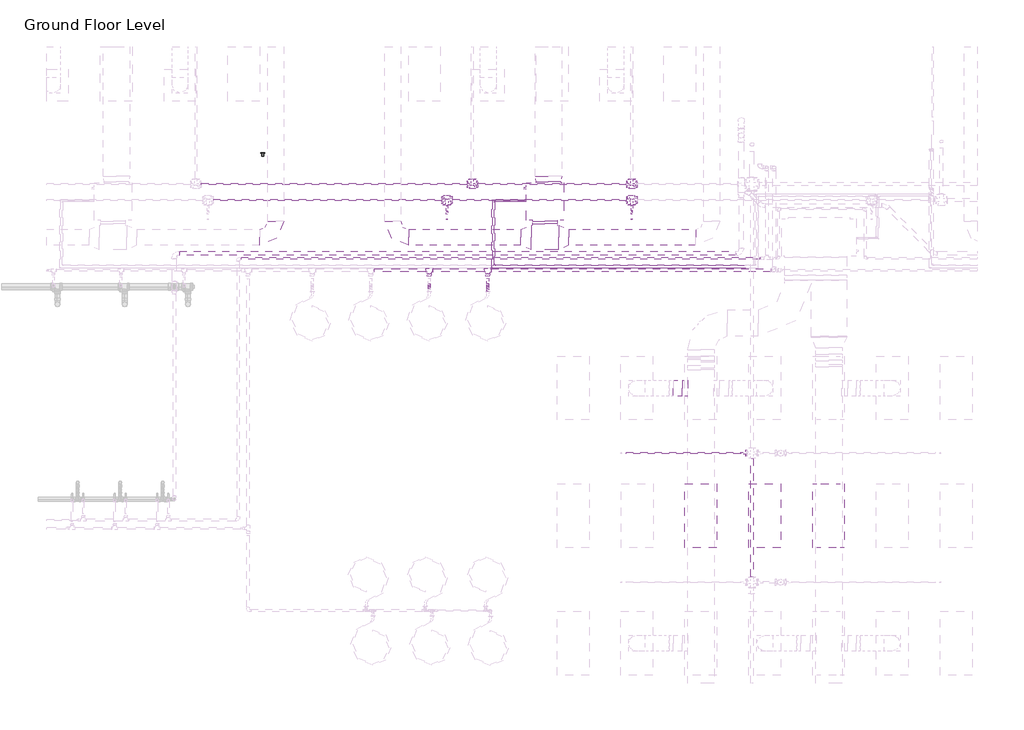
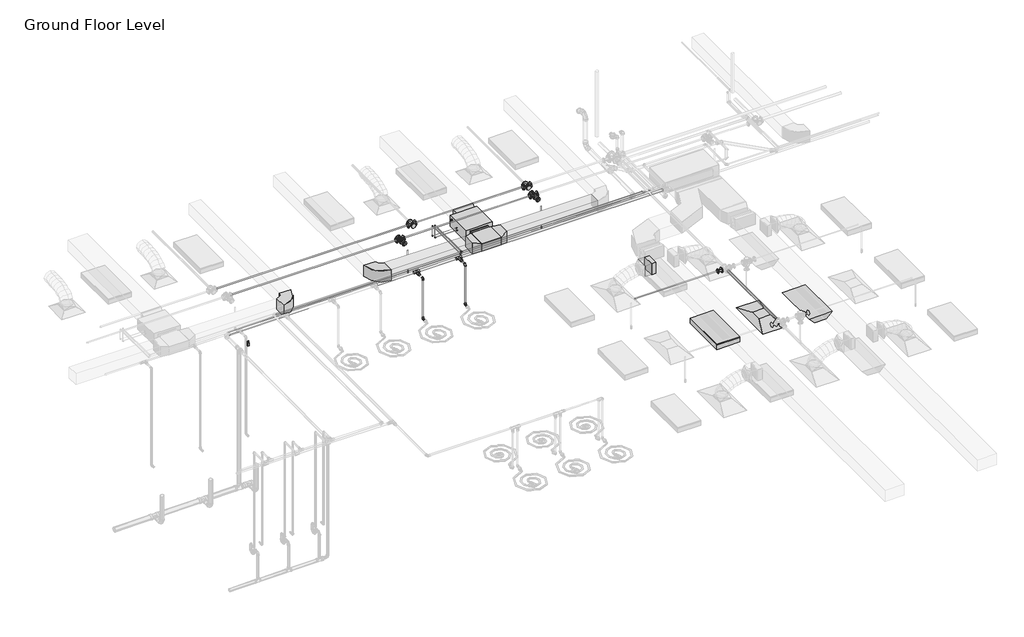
# One storey, part 48 of 74: 27 pipe segments, 21 pipe fittings, 9 duct fittings, 4 duct segments, 2 fire suppression terminals, 2 light fixtures, 1 air terminal, 1 proxy, 1 switching device.
"""IFC4 building model written with IfcOpenShell, lengths in millimetres."""

from ifc_helpers import new_model, si_unit, point, frame, frame_2d, origin, place, context, project, spatial, polyline, circle_curve, trimmed, segment, composite_curve, outline, extrude, transform, mapped, element, save
from components import m_return_diffuser_1200x600_1200_x_600_face_300_x_300_d1983ef6, fcu_daikin_iu_bad131e0, m_rectangular_elbow_radius_1_w_618da153, m_rectangular_takeoff_standard_2be5eba1, m_rectangular_tee_standard_fa4de0e8, m_rectangular_transition_angle_45_degree_5a11b24e, m_rectangular_transition_angle_45_degree_27e6000f, m_rectangular_transition_angle_45_degree_1c32c0a1, m_rectangular_transition_angle_45_degree_6e5ad010, m_sprinkler_pendent_15_mm_pendent_06fcbd8e, m_emergency_recessed_lighting_fixture_600x1200_277_5b10b25d, m_troffer_light_parabolic_rectangular1_0600x1200mm_4_lamp_86473d4a, m_elbow_generic_standard_a088f956, m_elbow_generic_standard_2a704253, m_elbow_generic_standard_6b1a80c6, m_elbow_generic_standard_5542be81, m_reducer_flanged_cs_class_150_standard_ccf252ad, m_reducer_flanged_cs_class_150_standard_83138b42, m_tee_generic_standard_5b2ed4d4, m_tee_generic_standard_25a94648, m_tee_round_base_flanged_cs_class_150_standard_7e5987a1, standard_517a5a8d, standard_cd25fed3, standard_f1337950, m_lighting_switches_single_pole_10251bba

model = new_model("IFC4")

# Units and contexts
model_context = context("Model", 3, world=origin())
ifc_project = project(units=[si_unit("LENGTHUNIT", "METRE", prefix="MILLI")], contexts=[model_context])

# Site, building, storey
site = spatial("IfcSite", under=ifc_project)
building = spatial("IfcBuilding", under=site)
storey = spatial("IfcBuildingStorey", under=building, Name="Ground Floor Level", Elevation=900.0)

# Air terminal
placement = place(None, origin())
m_return_diffuser_1200x600_1200_x_600_face_300_x_300_shape = m_return_diffuser_1200x600_1200_x_600_face_300_x_300_d1983ef6(model_context)
element("IfcAirTerminal", 1, ObjectType="M_Return Diffuser 1200x600 : 1200 x 600 Face 300 x 300 Connection", at=placement, inside=storey, context=model_context, shape_type="MappedRepresentation", body=[
    mapped(m_return_diffuser_1200x600_1200_x_600_face_300_x_300_shape, transform((-5737.2327605, 8835.2153534, 3650.0), x_axis=(0.0, 1.0, 0.0), y_axis=(-1.0, 0.0, 0.0), z_axis=(0.0, 0.0, 1.0))),
])

# Proxy
fcu_daikin_iu_shape = fcu_daikin_iu_bad131e0(model_context)
element("IfcBuildingElementProxy", 2, Name="FCU-DAIKIN IU : 4.5kW, 230V/50Hz/1Ph", ObjectType="FCU-DAIKIN IU : 4.5kW, 230V/50Hz/1Ph", at=placement, inside=storey, context=model_context, shape_type="MappedRepresentation", body=[
    mapped(fcu_daikin_iu_shape, transform((-9872.2327605, 14745.2153534, 3934.0872564), x_axis=(-1.0, 0.0, 0.0), y_axis=(0.0, -1.0, 0.0), z_axis=(0.0, 0.0, 1.0))),
])

# Duct fittings
m_rectangular_elbow_radius_1_w_shape = m_rectangular_elbow_radius_1_w_618da153(model_context)
element("IfcDuctFitting", 3, ObjectType="M_Rectangular Elbow - Radius : 1 W", at=placement, inside=storey, context=model_context, shape_type="MappedRepresentation", body=[
    mapped(m_rectangular_elbow_radius_1_w_shape, transform((-14937.2327605, 14069.8153534, 4075.2881511), x_axis=(1.0, 0.0, 0.0), y_axis=(0.0, 1.0, 0.0), z_axis=(0.0, 0.0, 1.0))),
])
element("IfcDuctFitting", 4, ObjectType="M_Rectangular Elbow - Radius : 1 W", at=placement, inside=storey, context=model_context, shape_type="MappedRepresentation", body=[
    mapped(m_rectangular_elbow_radius_1_w_shape, transform((-12737.2327605, 14069.8153534, 4075.2872564), x_axis=(0.0, -1.0, 0.0), y_axis=(1.0, 0.0, 0.0), z_axis=(0.0, 0.0, 1.0))),
])
m_rectangular_takeoff_standard_shape = m_rectangular_takeoff_standard_2be5eba1(model_context)
element("IfcDuctFitting", 5, ObjectType="M_Rectangular Takeoff : Standard", at=placement, inside=storey, context=model_context, shape_type="MappedRepresentation", body=[
    mapped(m_rectangular_takeoff_standard_shape, transform((-7189.6910789, 11235.2153534, 4150.0), x_axis=(-1.0, 0.0, 0.0), y_axis=(0.0, 1.0, 0.0), z_axis=(0.0, 0.0, -1.0))),
])
m_rectangular_tee_standard_shape = m_rectangular_tee_standard_fa4de0e8(model_context)
element("IfcDuctFitting", 6, ObjectType="M_Rectangular Tee : Standard", at=placement, inside=storey, context=model_context, shape_type="MappedRepresentation", body=[
    mapped(m_rectangular_tee_standard_shape, transform((-9872.2327605, 14069.8153534, 4075.2872564), x_axis=(-1.0, 0.0, 0.0), y_axis=(0.0, -1.0, 0.0), z_axis=(0.0, 0.0, 1.0))),
])
m_rectangular_transition_angle_45_degree_shape = m_rectangular_transition_angle_45_degree_5a11b24e(model_context)
element("IfcDuctFitting", 7, ObjectType="M_Rectangular Transition - Angle : 45 Degree", at=placement, inside=storey, context=model_context, shape_type="MappedRepresentation", body=[
    mapped(m_rectangular_transition_angle_45_degree_shape, transform((-9808.7327605, 15120.6153534, 4099.9997564), x_axis=(0.0, 1.0, 0.0), y_axis=(-1.0, 0.0, 0.0), z_axis=(0.0, 0.0, 1.0))),
])
m_rectangular_transition_angle_45_degree_2_shape = m_rectangular_transition_angle_45_degree_27e6000f(model_context)
element("IfcDuctFitting", 8, ObjectType="M_Rectangular Transition - Angle : 45 Degree", at=placement, inside=storey, context=model_context, shape_type="MappedRepresentation", body=[
    mapped(m_rectangular_transition_angle_45_degree_2_shape, transform((-9872.2327605, 14369.8153534, 4075.2872564), x_axis=(0.0, -1.0, 0.0), y_axis=(1.0, 0.0, 0.0), z_axis=(0.0, 0.0, 1.0))),
])
m_rectangular_transition_angle_45_degree_3_shape = m_rectangular_transition_angle_45_degree_1c32c0a1(model_context)
element("IfcDuctFitting", 9, ObjectType="M_Rectangular Transition - Angle : 45 Degree", at=placement, inside=storey, context=model_context, shape_type="MappedRepresentation", body=[
    mapped(m_rectangular_transition_angle_45_degree_3_shape, transform((-9872.2327605, 14326.1149854, 4075.2872564), x_axis=(0.0, -1.0, 0.0), y_axis=(1.0, 0.0, 0.0), z_axis=(0.0, 0.0, 1.0))),
])
m_rectangular_transition_angle_45_degree_4_shape = m_rectangular_transition_angle_45_degree_6e5ad010(model_context)
element("IfcDuctFitting", 10, ObjectType="M_Rectangular Transition - Angle : 45 Degree", at=placement, inside=storey, context=model_context, shape_type="MappedRepresentation", body=[
    mapped(m_rectangular_transition_angle_45_degree_4_shape, transform((-10128.1702605, 14069.8153534, 4075.2872564), x_axis=(-1.0, 0.0, 0.0), y_axis=(0.0, -1.0, 0.0), z_axis=(0.0, 0.0, 1.0))),
])
element("IfcDuctFitting", 11, ObjectType="M_Rectangular Transition - Angle : 45 Degree", at=placement, inside=storey, context=model_context, shape_type="MappedRepresentation", body=[
    mapped(m_rectangular_transition_angle_45_degree_4_shape, transform((-9616.2952605, 14069.8153534, 4075.2872564), x_axis=(1.0, 0.0, 0.0), y_axis=(0.0, 1.0, 0.0), z_axis=(0.0, 0.0, 1.0))),
])

# Duct segments
element("IfcDuctSegment", 12, ObjectType="Radius Elbows / Taps", at=placement, inside=storey, context=model_context, shape_type="SweptSolid", body=[
    extrude(outline(polyline([(-9420.8948503, 13919.8153534), (-9420.8948503, 14219.8153534), (-7037.2327605, 14219.8153534), (-7037.2327605, 13919.8153534), (-9420.8948503, 13919.8153534)])), frame((0.0, 0.0, 3925.2872564), z_axis=(0.0, 0.0, 1.0), x_axis=(1.0, 0.0, 0.0)), (0.0, 0.0, 1.0), 300.0),
])
element("IfcDuctSegment", 13, ObjectType="Radius Elbows / Taps", at=placement, inside=storey, context=model_context, shape_type="SweptSolid", body=[
    extrude(outline(polyline([(-12437.2327605, 13919.8153534), (-12437.2327605, 14219.8153534), (-10323.5706707, 14219.8153534), (-10323.5706707, 13919.8153534), (-12437.2327605, 13919.8153534)])), frame((0.0, 0.0, 3925.2872564), z_axis=(0.0, 0.0, 1.0), x_axis=(1.0, 0.0, 0.0)), (0.0, 0.0, 1.0), 300.0),
])
element("IfcDuctSegment", 14, ObjectType="Radius Elbows / Taps", at=placement, inside=storey, context=model_context, shape_type="SweptSolid", body=[
    extrude(outline(polyline([(-10103.2327605, 14369.4532214), (-9641.2327605, 14369.4532214), (-9641.2327605, 14326.1149854), (-10103.2327605, 14326.1149854), (-10103.2327605, 14369.4532214)])), frame((0.0, 0.0, 3968.2872564), z_axis=(0.0, 0.0, 1.0), x_axis=(1.0, 0.0, 0.0)), (0.0, 0.0, 1.0), 214.0),
])
element("IfcDuctSegment", 15, ObjectType="Radius Elbows / Taps", at=placement, inside=storey, context=model_context, shape_type="SweptSolid", body=[
    extrude(outline(polyline([(-7291.2910789, 11385.2153534), (-7291.2910789, 11085.2153534), (-7461.2487616, 11085.2153534), (-7461.2487616, 11385.2153534), (-7291.2910789, 11385.2153534)])), frame((0.0, 0.0, 4000.0), z_axis=(0.0, 0.0, 1.0), x_axis=(1.0, 0.0, 0.0)), (0.0, 0.0, 1.0), 300.0),
])

# Fire suppression terminals
m_sprinkler_pendent_15_mm_pendent_shape = m_sprinkler_pendent_15_mm_pendent_06fcbd8e(model_context)
element("IfcFireSuppressionTerminal", 16, ObjectType="M_Sprinkler - Pendent : 15 mm Pendent", at=placement, inside=storey, context=model_context, shape_type="MappedRepresentation", body=[
    mapped(m_sprinkler_pendent_15_mm_pendent_shape, transform((-11714.286216, 14412.7243649, 3650.0), x_axis=(1.0, 0.0, 0.0), y_axis=(0.0, 1.0, 0.0), z_axis=(0.0, 0.0, 1.0))),
])
element("IfcFireSuppressionTerminal", 17, ObjectType="M_Sprinkler - Pendent : 15 mm Pendent", at=placement, inside=storey, context=model_context, shape_type="MappedRepresentation", body=[
    mapped(m_sprinkler_pendent_15_mm_pendent_shape, transform((-8237.2327605, 14412.7243649, 3650.0), x_axis=(1.0, 0.0, 0.0), y_axis=(0.0, 1.0, 0.0), z_axis=(0.0, 0.0, 1.0))),
])

# Light fixtures
m_emergency_recessed_lighting_fixture_600x1200_277_shape = m_emergency_recessed_lighting_fixture_600x1200_277_5b10b25d(model_context)
element("IfcLightFixture", 18, ObjectType="M_Emergency Recessed Lighting Fixture : 600x1200 - 277", at=placement, inside=storey, context=model_context, shape_type="MappedRepresentation", body=[
    mapped(m_emergency_recessed_lighting_fixture_600x1200_277_shape, transform((-4837.2327605, 8235.2153534, 3650.0), x_axis=(0.0, 1.0, 0.0), y_axis=(-1.0, 0.0, 0.0), z_axis=(0.0, 0.0, 1.0))),
])
m_troffer_light_parabolic_rectangular1_0600x1200mm_4_lamp_shape = m_troffer_light_parabolic_rectangular1_0600x1200mm_4_lamp_86473d4a(model_context)
element("IfcLightFixture", 19, ObjectType="M_Troffer Light - Parabolic Rectangular1 : 0600x1200mm(4 Lamp) - 277V 2", at=placement, inside=storey, context=model_context, shape_type="MappedRepresentation", body=[
    mapped(m_troffer_light_parabolic_rectangular1_0600x1200mm_4_lamp_shape, transform((-6996.6986926, 8853.918855, 3650.0), x_axis=(0.0, 1.0, 0.0), y_axis=(-1.0, 0.0, 0.0), z_axis=(0.0, 0.0, 1.0))),
])

# Pipe fittings
m_elbow_generic_standard_shape = m_elbow_generic_standard_a088f956(model_context)
element("IfcPipeFitting", 20, ObjectType="M_Elbow - Generic : Standard", at=placement, inside=storey, context=model_context, shape_type="MappedRepresentation", body=[
    mapped(m_elbow_generic_standard_shape, transform((-10820.3327605, 14745.2153534, 4380.0), x_axis=(0.0, 0.0, 1.0), y_axis=(0.0, -1.0, 0.0), z_axis=(1.0, 0.0, 0.0))),
])
m_elbow_generic_standard_2_shape = m_elbow_generic_standard_2a704253(model_context)
element("IfcPipeFitting", 21, ObjectType="M_Elbow - Generic : Standard", at=placement, inside=storey, context=model_context, shape_type="MappedRepresentation", body=[
    mapped(m_elbow_generic_standard_2_shape, transform((-10870.0192947, 14770.2153534, 4365.0), x_axis=(0.0, 0.0, 1.0), y_axis=(0.0, -1.0, 0.0), z_axis=(1.0, 0.0, 0.0))),
])
m_elbow_generic_standard_3_shape = m_elbow_generic_standard_6b1a80c6(model_context)
element("IfcPipeFitting", 22, ObjectType="M_Elbow - Generic : Standard", at=placement, inside=storey, context=model_context, shape_type="MappedRepresentation", body=[
    mapped(m_elbow_generic_standard_3_shape, transform((-10820.3359808, 14745.2153534, 4034.0996164), x_axis=(-0.9999999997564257, 0.0, 2.2071440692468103e-05), y_axis=(2.2071440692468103e-05, 0.0, 0.9999999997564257), z_axis=(0.0, 1.0, 0.0))),
])
m_elbow_generic_standard_4_shape = m_elbow_generic_standard_5542be81(model_context)
element("IfcPipeFitting", 23, ObjectType="M_Elbow - Generic : Standard", at=placement, inside=storey, context=model_context, shape_type="MappedRepresentation", body=[
    mapped(m_elbow_generic_standard_4_shape, transform((-10870.0222525, 14770.2153534, 4084.8996164), x_axis=(0.0, 0.0, -1.0), y_axis=(1.0, 0.0, 0.0), z_axis=(0.0, -1.0, 0.0))),
])
m_reducer_flanged_cs_class_150_standard_shape = m_reducer_flanged_cs_class_150_standard_ccf252ad(model_context)
element("IfcPipeFitting", 24, ObjectType="M_Reducer - Flanged - CS - Class 150 : Standard", at=placement, inside=storey, context=model_context, shape_type="MappedRepresentation", body=[
    mapped(m_reducer_flanged_cs_class_150_standard_shape, transform((-11714.286216, 14672.759591, 4291.0943441), x_axis=(0.0, -1.0, 0.0), y_axis=(1.0, 0.0, 0.0), z_axis=(0.0, 0.0, 1.0))),
])
element("IfcPipeFitting", 25, ObjectType="M_Reducer - Flanged - CS - Class 150 : Standard", at=placement, inside=storey, context=model_context, shape_type="MappedRepresentation", body=[
    mapped(m_reducer_flanged_cs_class_150_standard_shape, transform((-8237.2327605, 14672.759591, 4291.0943441), x_axis=(0.0, -1.0, 0.0), y_axis=(1.0, 0.0, 0.0), z_axis=(0.0, 0.0, 1.0))),
])
m_reducer_flanged_cs_class_150_standard_2_shape = m_reducer_flanged_cs_class_150_standard_83138b42(model_context)
element("IfcPipeFitting", 26, ObjectType="M_Reducer - Flanged - CS - Class 150 : Standard", at=placement, inside=storey, context=model_context, shape_type="MappedRepresentation", body=[
    mapped(m_reducer_flanged_cs_class_150_standard_2_shape, transform((-6080.130502, 10013.008259, 4360.0), x_axis=(-1.0, 0.0, 0.0), y_axis=(0.0, 0.0, -1.0), z_axis=(0.0, -1.0, 0.0))),
])
m_tee_generic_standard_shape = m_tee_generic_standard_5b2ed4d4(model_context)
element("IfcPipeFitting", 27, ObjectType="M_Tee - Generic : Standard", at=placement, inside=storey, context=model_context, shape_type="MappedRepresentation", body=[
    mapped(m_tee_generic_standard_shape, transform((-10820.3327605, 13545.2153534, 4380.0), x_axis=(1.0, 0.0, 0.0), y_axis=(0.0, -1.0, 0.0), z_axis=(0.0, 0.0, -1.0))),
])
m_tee_generic_standard_2_shape = m_tee_generic_standard_25a94648(model_context)
element("IfcPipeFitting", 28, ObjectType="M_Tee - Generic : Standard", at=placement, inside=storey, context=model_context, shape_type="MappedRepresentation", body=[
    mapped(m_tee_generic_standard_2_shape, transform((-10870.0192947, 13494.0185138, 4365.0), x_axis=(-1.0, 0.0, 0.0), y_axis=(0.0, -1.0, 0.0), z_axis=(0.0, 0.0, 1.0))),
])
m_tee_round_base_flanged_cs_class_150_standard_shape = m_tee_round_base_flanged_cs_class_150_standard_7e5987a1(model_context)
element("IfcPipeFitting", 29, ObjectType="M_Tee Round Base - Flanged - CS - Class 150 : Standard", at=placement, inside=storey, context=model_context, shape_type="MappedRepresentation", body=[
    mapped(m_tee_round_base_flanged_cs_class_150_standard_shape, transform((-11714.286216, 14773.4681847, 4291.0943441), x_axis=(-1.0, 0.0, 0.0), y_axis=(0.0, 1.0, 0.0), z_axis=(0.0, 0.0, -1.0))),
])
element("IfcPipeFitting", 30, ObjectType="M_Tee Round Base - Flanged - CS - Class 150 : Standard", at=placement, inside=storey, context=model_context, shape_type="MappedRepresentation", body=[
    mapped(m_tee_round_base_flanged_cs_class_150_standard_shape, transform((-8237.2327605, 14773.4681847, 4291.0943441), x_axis=(-1.0, 0.0, 0.0), y_axis=(0.0, 1.0, 0.0), z_axis=(0.0, 0.0, -1.0))),
])
element("IfcPipeFitting", 31, ObjectType="M_Tee Round Base - Flanged - CS - Class 150 : Standard", at=placement, inside=storey, context=model_context, shape_type="MappedRepresentation", body=[
    mapped(m_tee_round_base_flanged_cs_class_150_standard_shape, transform((-11237.2327605, 15073.2009828, 4360.0), x_axis=(-1.0, 0.0, 0.0), y_axis=(0.0, -1.0, 0.0), z_axis=(0.0, 0.0, 1.0))),
])
element("IfcPipeFitting", 32, ObjectType="M_Tee Round Base - Flanged - CS - Class 150 : Standard", at=placement, inside=storey, context=model_context, shape_type="MappedRepresentation", body=[
    mapped(m_tee_round_base_flanged_cs_class_150_standard_shape, transform((-8237.2327605, 15073.2009828, 4360.0), x_axis=(-1.0, 0.0, 0.0), y_axis=(0.0, -1.0, 0.0), z_axis=(0.0, 0.0, 1.0))),
])
standard_shape = standard_517a5a8d(model_context)
element("IfcPipeFitting", 33, ObjectType="M_Elbow - CPVC - Sch 40 : Standard", at=placement, inside=storey, context=model_context, shape_type="MappedRepresentation", body=[
    mapped(standard_shape, transform((-12047.2327605, 13150.8347997, 4315.0), x_axis=(0.0, 0.0, 1.0), y_axis=(0.0, 1.0, 0.0), z_axis=(-1.0, 0.0, 0.0))),
])
element("IfcPipeFitting", 34, ObjectType="M_Elbow - CPVC - Sch 40 : Standard", at=placement, inside=storey, context=model_context, shape_type="MappedRepresentation", body=[
    mapped(standard_shape, transform((-10947.2327605, 13150.8347997, 4315.0), x_axis=(0.0, 0.0, 1.0), y_axis=(0.0, 1.0, 0.0), z_axis=(-1.0, 0.0, 0.0))),
])
element("IfcPipeFitting", 35, ObjectType="M_Elbow - CPVC - Sch 40 : Standard", at=placement, inside=storey, context=model_context, shape_type="MappedRepresentation", body=[
    mapped(standard_shape, transform((-12047.2327605, 13150.8347997, 3200.0), x_axis=(0.0, 0.0, -1.0), y_axis=(0.0, -1.0, 0.0), z_axis=(-1.0, 0.0, 0.0))),
])
element("IfcPipeFitting", 36, ObjectType="M_Elbow - CPVC - Sch 40 : Standard", at=placement, inside=storey, context=model_context, shape_type="MappedRepresentation", body=[
    mapped(standard_shape, transform((-10947.2327605, 13150.8347997, 3200.0), x_axis=(0.0, 0.0, -1.0), y_axis=(0.0, -1.0, 0.0), z_axis=(-1.0, 0.0, 0.0))),
])
standard_2_shape = standard_cd25fed3(model_context)
element("IfcPipeFitting", 37, ObjectType="M_Tee - CPVC - Sch 40 : Standard", at=placement, inside=storey, context=model_context, shape_type="MappedRepresentation", body=[
    mapped(standard_2_shape, transform((-12047.2327605, 13449.9865561, 4315.0), x_axis=(-1.0, 0.0, 0.0), y_axis=(0.0, 1.0, 0.0), z_axis=(0.0, 0.0, -1.0))),
])
element("IfcPipeFitting", 38, ObjectType="M_Tee - CPVC - Sch 40 : Standard", at=placement, inside=storey, context=model_context, shape_type="MappedRepresentation", body=[
    mapped(standard_2_shape, transform((-10947.2327605, 13449.9865561, 4315.0), x_axis=(1.0, 0.0, 0.0), y_axis=(0.0, 1.0, 0.0), z_axis=(0.0, 0.0, 1.0))),
])
standard_3_shape = standard_f1337950(model_context)
element("IfcPipeFitting", 39, ObjectType="M_Coupling Reducing - CPVC - Sch 40 : Standard", at=placement, inside=storey, context=model_context, shape_type="MappedRepresentation", body=[
    mapped(standard_3_shape, transform((-12047.2327605, 13383.3115561, 4315.0), x_axis=(0.0, -1.0, 0.0), y_axis=(1.0, 0.0, 0.0), z_axis=(0.0, 0.0, 1.0))),
])
element("IfcPipeFitting", 40, ObjectType="M_Coupling Reducing - CPVC - Sch 40 : Standard", at=placement, inside=storey, context=model_context, shape_type="MappedRepresentation", body=[
    mapped(standard_3_shape, transform((-10947.2327605, 13383.3115561, 4315.0), x_axis=(0.0, -1.0, 0.0), y_axis=(1.0, 0.0, 0.0), z_axis=(0.0, 0.0, 1.0))),
])

# Pipe segments
element("IfcPipeSegment", 41, ObjectType="CPVC", at=placement, inside=storey, context=model_context, shape_type="SweptSolid", body=[
    extrude(outline(composite_curve([segment(trimmed(circle_curve(frame_2d((-12047.2327605, 13150.8347997)), 16.7005), [point((-12063.9332605, 13150.8347997))], [point((-12047.2327605, 13167.5352997))], False, "CARTESIAN"), True, "CONTINUOUS"), segment(trimmed(circle_curve(frame_2d((-12047.2327605, 13150.8347997)), 16.7005), [point((-12047.2327605, 13167.5352997))], [point((-12030.5322605, 13150.8347997))], False, "CARTESIAN"), True, "CONTINUOUS"), segment(trimmed(circle_curve(frame_2d((-12047.2327605, 13150.8347997)), 16.7005), [point((-12030.5322605, 13150.8347997))], [point((-12047.2327605, 13134.1342997))], False, "CARTESIAN"), True, "CONTINUOUS"), segment(trimmed(circle_curve(frame_2d((-12047.2327605, 13150.8347997)), 16.7005), [point((-12047.2327605, 13134.1342997))], [point((-12063.9332605, 13150.8347997))], False, "CARTESIAN"), True, "CONTINUOUS")], self_intersect=False)), frame((0.0, 0.0, 3243.26255), z_axis=(0.0, 0.0, 1.0), x_axis=(1.0, 0.0, 0.0)), (0.0, 0.0, 1.0), 1028.4749),
])
element("IfcPipeSegment", 42, ObjectType="CPVC", at=placement, inside=storey, context=model_context, shape_type="SweptSolid", body=[
    extrude(outline(composite_curve([segment(trimmed(circle_curve(frame_2d((3200.0, -10947.2327605)), 16.7005), [point((3200.0, -10963.9332605))], [point((3183.2995, -10947.2327605))], False, "CARTESIAN"), True, "CONTINUOUS"), segment(trimmed(circle_curve(frame_2d((3200.0, -10947.2327605)), 16.7005), [point((3183.2995, -10947.2327605))], [point((3200.0, -10930.5322605))], False, "CARTESIAN"), True, "CONTINUOUS"), segment(trimmed(circle_curve(frame_2d((3200.0, -10947.2327605)), 16.7005), [point((3200.0, -10930.5322605))], [point((3216.7005, -10947.2327605))], False, "CARTESIAN"), True, "CONTINUOUS"), segment(trimmed(circle_curve(frame_2d((3200.0, -10947.2327605)), 16.7005), [point((3216.7005, -10947.2327605))], [point((3200.0, -10963.9332605))], False, "CARTESIAN"), True, "CONTINUOUS")], self_intersect=False)), frame((0.0, 13056.8347997, 0.0), z_axis=(0.0, 1.0, 0.0), x_axis=(0.0, 0.0, 1.0)), (0.0, 0.0, 1.0), 50.73745),
])
element("IfcPipeSegment", 43, ObjectType="CPVC", at=placement, inside=storey, context=model_context, shape_type="SweptSolid", body=[
    extrude(outline(composite_curve([segment(trimmed(circle_curve(frame_2d((4315.0, -10947.2327605)), 16.7005), [point((4315.0, -10930.5322605))], [point((4331.7005, -10947.2327605))], False, "CARTESIAN"), True, "CONTINUOUS"), segment(trimmed(circle_curve(frame_2d((4315.0, -10947.2327605)), 16.7005), [point((4331.7005, -10947.2327605))], [point((4315.0, -10963.9332605))], False, "CARTESIAN"), True, "CONTINUOUS"), segment(trimmed(circle_curve(frame_2d((4315.0, -10947.2327605)), 16.7005), [point((4315.0, -10963.9332605))], [point((4298.2995, -10947.2327605))], False, "CARTESIAN"), True, "CONTINUOUS"), segment(trimmed(circle_curve(frame_2d((4315.0, -10947.2327605)), 16.7005), [point((4298.2995, -10947.2327605))], [point((4315.0, -10930.5322605))], False, "CARTESIAN"), True, "CONTINUOUS")], self_intersect=False)), frame((0.0, 13194.0973497, 0.0), z_axis=(0.0, 1.0, 0.0), x_axis=(0.0, 0.0, 1.0)), (0.0, 0.0, 1.0), 109.4153315),
])
element("IfcPipeSegment", 44, ObjectType="CPVC", at=placement, inside=storey, context=model_context, shape_type="SweptSolid", body=[
    extrude(outline(composite_curve([segment(trimmed(circle_curve(frame_2d((-10947.2327605, 13150.8347997)), 16.7005), [point((-10963.9332605, 13150.8347997))], [point((-10947.2327605, 13167.5352997))], False, "CARTESIAN"), True, "CONTINUOUS"), segment(trimmed(circle_curve(frame_2d((-10947.2327605, 13150.8347997)), 16.7005), [point((-10947.2327605, 13167.5352997))], [point((-10930.5322605, 13150.8347997))], False, "CARTESIAN"), True, "CONTINUOUS"), segment(trimmed(circle_curve(frame_2d((-10947.2327605, 13150.8347997)), 16.7005), [point((-10930.5322605, 13150.8347997))], [point((-10947.2327605, 13134.1342997))], False, "CARTESIAN"), True, "CONTINUOUS"), segment(trimmed(circle_curve(frame_2d((-10947.2327605, 13150.8347997)), 16.7005), [point((-10947.2327605, 13134.1342997))], [point((-10963.9332605, 13150.8347997))], False, "CARTESIAN"), True, "CONTINUOUS")], self_intersect=False)), frame((0.0, 0.0, 3243.26255), z_axis=(0.0, 0.0, 1.0), x_axis=(1.0, 0.0, 0.0)), (0.0, 0.0, 1.0), 1028.4749),
])
element("IfcPipeSegment", 45, ObjectType="CPVC", at=placement, inside=storey, context=model_context, shape_type="SweptSolid", body=[
    extrude(outline(composite_curve([segment(trimmed(circle_curve(frame_2d((13449.9865561, 4315.0)), 30.1625), [point((13419.8240561, 4315.0))], [point((13449.9865561, 4345.1625))], False, "CARTESIAN"), True, "CONTINUOUS"), segment(trimmed(circle_curve(frame_2d((13449.9865561, 4315.0)), 30.1625), [point((13449.9865561, 4345.1625))], [point((13480.1490561, 4315.0))], False, "CARTESIAN"), True, "CONTINUOUS"), segment(trimmed(circle_curve(frame_2d((13449.9865561, 4315.0)), 30.1625), [point((13480.1490561, 4315.0))], [point((13449.9865561, 4284.8375))], False, "CARTESIAN"), True, "CONTINUOUS"), segment(trimmed(circle_curve(frame_2d((13449.9865561, 4315.0)), 30.1625), [point((13449.9865561, 4284.8375))], [point((13419.8240561, 4315.0))], False, "CARTESIAN"), True, "CONTINUOUS")], self_intersect=False)), frame((-13080.5577605, 0.0, 0.0), z_axis=(1.0, 0.0, 0.0), x_axis=(0.0, 1.0, 0.0)), (0.0, 0.0, 1.0), 966.65),
])
element("IfcPipeSegment", 46, ObjectType="CPVC", at=placement, inside=storey, context=model_context, shape_type="SweptSolid", body=[
    extrude(outline(composite_curve([segment(trimmed(circle_curve(frame_2d((13449.9865561, 4315.0)), 30.1625), [point((13419.8240561, 4315.0))], [point((13449.9865561, 4345.1625))], False, "CARTESIAN"), True, "CONTINUOUS"), segment(trimmed(circle_curve(frame_2d((13449.9865561, 4315.0)), 30.1625), [point((13449.9865561, 4345.1625))], [point((13480.1490561, 4315.0))], False, "CARTESIAN"), True, "CONTINUOUS"), segment(trimmed(circle_curve(frame_2d((13449.9865561, 4315.0)), 30.1625), [point((13480.1490561, 4315.0))], [point((13449.9865561, 4284.8375))], False, "CARTESIAN"), True, "CONTINUOUS"), segment(trimmed(circle_curve(frame_2d((13449.9865561, 4315.0)), 30.1625), [point((13449.9865561, 4284.8375))], [point((13419.8240561, 4315.0))], False, "CARTESIAN"), True, "CONTINUOUS")], self_intersect=False)), frame((-11980.5577605, 0.0, 0.0), z_axis=(1.0, 0.0, 0.0), x_axis=(0.0, 1.0, 0.0)), (0.0, 0.0, 1.0), 966.65),
])
element("IfcPipeSegment", 47, ObjectType="CPVC", at=placement, inside=storey, context=model_context, shape_type="SweptSolid", body=[
    extrude(outline(composite_curve([segment(trimmed(circle_curve(frame_2d((13675.2153534, 4250.0)), 21.082), [point((13654.1333534, 4250.0))], [point((13675.2153534, 4271.082))], False, "CARTESIAN"), True, "CONTINUOUS"), segment(trimmed(circle_curve(frame_2d((13675.2153534, 4250.0)), 21.082), [point((13675.2153534, 4271.082))], [point((13696.2973534, 4250.0))], False, "CARTESIAN"), True, "CONTINUOUS"), segment(trimmed(circle_curve(frame_2d((13675.2153534, 4250.0)), 21.082), [point((13696.2973534, 4250.0))], [point((13675.2153534, 4228.918))], False, "CARTESIAN"), True, "CONTINUOUS"), segment(trimmed(circle_curve(frame_2d((13675.2153534, 4250.0)), 21.082), [point((13675.2153534, 4228.918))], [point((13654.1333534, 4250.0))], False, "CARTESIAN"), True, "CONTINUOUS")], self_intersect=False)), frame((-15584.8736174, 0.0, 0.0), z_axis=(1.0, 0.0, 0.0), x_axis=(0.0, 1.0, 0.0)), (0.0, 0.0, 1.0), 9750.0786527),
])
element("IfcPipeSegment", 48, ObjectType="CPVC", at=placement, inside=storey, context=model_context, shape_type="SweptSolid", body=[
    extrude(outline(composite_curve([segment(trimmed(circle_curve(frame_2d((13449.9865561, 4315.0)), 30.1625), [point((13419.8240561, 4315.0))], [point((13449.9865561, 4345.1625))], False, "CARTESIAN"), True, "CONTINUOUS"), segment(trimmed(circle_curve(frame_2d((13449.9865561, 4315.0)), 30.1625), [point((13449.9865561, 4345.1625))], [point((13480.1490561, 4315.0))], False, "CARTESIAN"), True, "CONTINUOUS"), segment(trimmed(circle_curve(frame_2d((13449.9865561, 4315.0)), 30.1625), [point((13480.1490561, 4315.0))], [point((13449.9865561, 4284.8375))], False, "CARTESIAN"), True, "CONTINUOUS"), segment(trimmed(circle_curve(frame_2d((13449.9865561, 4315.0)), 30.1625), [point((13449.9865561, 4284.8375))], [point((13419.8240561, 4315.0))], False, "CARTESIAN"), True, "CONTINUOUS")], self_intersect=False)), frame((-10880.5577605, 0.0, 0.0), z_axis=(1.0, 0.0, 0.0), x_axis=(0.0, 1.0, 0.0)), (0.0, 0.0, 1.0), 5253.0113849),
])
element("IfcPipeSegment", 49, ObjectType="Copper", at=placement, inside=storey, context=model_context, shape_type="SweptSolid", body=[
    extrude(outline(composite_curve([segment(trimmed(circle_curve(frame_2d((0.0, -3.35)), 3.35), [point((-3.35, -3.35))], [point((0.0, 0.0))], False, "CARTESIAN"), True, "CONTINUOUS"), segment(trimmed(circle_curve(frame_2d((0.0, -3.35)), 3.35), [point((0.0, 0.0))], [point((3.35, -3.35))], False, "CARTESIAN"), True, "CONTINUOUS"), segment(trimmed(circle_curve(frame_2d((0.0, -3.35)), 3.35), [point((3.35, -3.35))], [point((0.0, -6.7))], False, "CARTESIAN"), True, "CONTINUOUS"), segment(trimmed(circle_curve(frame_2d((0.0, -3.35)), 3.35), [point((0.0, -6.7))], [point((-3.35, -3.35))], False, "CARTESIAN"), True, "CONTINUOUS")], self_intersect=False)), frame((-10260.3328284, 14770.2153534, 4081.5372564), z_axis=(-0.9999999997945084, 0.0, 2.0272724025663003e-05), x_axis=(0.0, 1.0, 0.0)), (0.0, 0.0, 1.0), 598.5522179),
])
element("IfcPipeSegment", 50, ObjectType="Copper", at=placement, inside=storey, context=model_context, shape_type="SweptSolid", body=[
    extrude(outline(composite_curve([segment(trimmed(circle_curve(frame_2d((4365.0, -10870.0192947)), 3.35), [point((4365.0, -10873.3692947))], [point((4361.65, -10870.0192947))], False, "CARTESIAN"), True, "CONTINUOUS"), segment(trimmed(circle_curve(frame_2d((4365.0, -10870.0192947)), 3.35), [point((4361.65, -10870.0192947))], [point((4365.0, -10866.6692947))], False, "CARTESIAN"), True, "CONTINUOUS"), segment(trimmed(circle_curve(frame_2d((4365.0, -10870.0192947)), 3.35), [point((4365.0, -10866.6692947))], [point((4368.35, -10870.0192947))], False, "CARTESIAN"), True, "CONTINUOUS"), segment(trimmed(circle_curve(frame_2d((4365.0, -10870.0192947)), 3.35), [point((4368.35, -10870.0192947))], [point((4365.0, -10873.3692947))], False, "CARTESIAN"), True, "CONTINUOUS")], self_intersect=False)), frame((0.0, 13511.5060138, 0.0), z_axis=(0.0, 1.0, 0.0), x_axis=(0.0, 0.0, 1.0)), (0.0, 0.0, 1.0), 1247.5718396),
])
element("IfcPipeSegment", 51, ObjectType="Copper", at=placement, inside=storey, context=model_context, shape_type="SweptSolid", body=[
    extrude(outline(composite_curve([segment(trimmed(circle_curve(frame_2d((0.0, -3.35)), 3.35), [point((-3.35, -3.35))], [point((0.0, 0.0))], False, "CARTESIAN"), True, "CONTINUOUS"), segment(trimmed(circle_curve(frame_2d((0.0, -3.35)), 3.35), [point((0.0, 0.0))], [point((3.35, -3.35))], False, "CARTESIAN"), True, "CONTINUOUS"), segment(trimmed(circle_curve(frame_2d((0.0, -3.35)), 3.35), [point((3.35, -3.35))], [point((0.0, -6.7))], False, "CARTESIAN"), True, "CONTINUOUS"), segment(trimmed(circle_curve(frame_2d((0.0, -3.35)), 3.35), [point((0.0, -6.7))], [point((-3.35, -3.35))], False, "CARTESIAN"), True, "CONTINUOUS")], self_intersect=False)), frame((-10870.0222525, 14766.8653534, 4096.0368906), z_axis=(1.1472088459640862e-05, 0.0, 0.9999999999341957), x_axis=(-0.9999999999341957, 0.0, 1.1472088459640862e-05)), (0.0, 0.0, 1.0), 257.8256094),
])
element("IfcPipeSegment", 52, ObjectType="Copper", at=placement, inside=storey, context=model_context, shape_type="SweptSolid", body=[
    extrude(outline(composite_curve([segment(trimmed(circle_curve(frame_2d((0.0, 6.5)), 6.5), [point((-6.5, 6.5))], [point((0.0, 13.0))], False, "CARTESIAN"), True, "CONTINUOUS"), segment(trimmed(circle_curve(frame_2d((0.0, 6.5)), 6.5), [point((0.0, 13.0))], [point((6.5, 6.5))], False, "CARTESIAN"), True, "CONTINUOUS"), segment(trimmed(circle_curve(frame_2d((0.0, 6.5)), 6.5), [point((6.5, 6.5))], [point((0.0, 0.0))], False, "CARTESIAN"), True, "CONTINUOUS"), segment(trimmed(circle_curve(frame_2d((0.0, 6.5)), 6.5), [point((0.0, 0.0))], [point((-6.5, 6.5))], False, "CARTESIAN"), True, "CONTINUOUS")], self_intersect=False)), frame((-10260.332904, 14745.2153534, 4027.5872564), z_axis=(-0.9999999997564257, 0.0, 2.2071440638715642e-05), x_axis=(0.0, -1.0, 0.0)), (0.0, 0.0, 1.0), 545.7160357),
])
element("IfcPipeSegment", 53, ObjectType="Copper", at=placement, inside=storey, context=model_context, shape_type="SweptSolid", body=[
    extrude(outline(composite_curve([segment(trimmed(circle_curve(frame_2d((0.0, 6.5)), 6.5), [point((-6.4999999, 6.5))], [point((0.0, 13.0))], False, "CARTESIAN"), True, "CONTINUOUS"), segment(trimmed(circle_curve(frame_2d((0.0, 6.5)), 6.5), [point((0.0, 13.0))], [point((6.5, 6.5))], False, "CARTESIAN"), True, "CONTINUOUS"), segment(trimmed(circle_curve(frame_2d((0.0, 6.5)), 6.5), [point((6.5, 6.5))], [point((0.0, 0.0))], False, "CARTESIAN"), True, "CONTINUOUS"), segment(trimmed(circle_curve(frame_2d((0.0, 6.5)), 6.5), [point((0.0, 0.0))], [point((-6.4999999, 6.5))], False, "CARTESIAN"), True, "CONTINUOUS")], self_intersect=False)), frame((-10820.3359808, 14738.7153534, 4048.3868011), z_axis=(1.0148033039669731e-05, 0.0, 0.9999999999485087), x_axis=(0.9999999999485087, 0.0, -1.0148033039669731e-05)), (0.0, 0.0, 1.0), 317.3256989),
])
element("IfcPipeSegment", 54, ObjectType="Copper", at=placement, inside=storey, context=model_context, shape_type="SweptSolid", body=[
    extrude(outline(composite_curve([segment(trimmed(circle_curve(frame_2d((4380.0, -10820.3327605)), 6.5), [point((4380.0, -10826.8327605))], [point((4373.5, -10820.3327605))], False, "CARTESIAN"), True, "CONTINUOUS"), segment(trimmed(circle_curve(frame_2d((4380.0, -10820.3327605)), 6.5), [point((4373.5, -10820.3327605))], [point((4380.0, -10813.8327605))], False, "CARTESIAN"), True, "CONTINUOUS"), segment(trimmed(circle_curve(frame_2d((4380.0, -10820.3327605)), 6.5), [point((4380.0, -10813.8327605))], [point((4386.5, -10820.3327605))], False, "CARTESIAN"), True, "CONTINUOUS"), segment(trimmed(circle_curve(frame_2d((4380.0, -10820.3327605)), 6.5), [point((4386.5, -10820.3327605))], [point((4380.0, -10826.8327605))], False, "CARTESIAN"), True, "CONTINUOUS")], self_intersect=False)), frame((0.0, 13565.8528534, 0.0), z_axis=(0.0, 1.0, 0.0), x_axis=(0.0, 0.0, 1.0)), (0.0, 0.0, 1.0), 1165.075),
])
element("IfcPipeSegment", 55, ObjectType="Copper", at=placement, inside=storey, context=model_context, shape_type="SweptSolid", body=[
    extrude(outline(composite_curve([segment(trimmed(circle_curve(frame_2d((13545.2153534, 4380.0)), 6.5), [point((13538.7153534, 4380.0))], [point((13545.2153534, 4386.5))], False, "CARTESIAN"), True, "CONTINUOUS"), segment(trimmed(circle_curve(frame_2d((13545.2153534, 4380.0)), 6.5), [point((13545.2153534, 4386.5))], [point((13551.7153534, 4380.0))], False, "CARTESIAN"), True, "CONTINUOUS"), segment(trimmed(circle_curve(frame_2d((13545.2153534, 4380.0)), 6.5), [point((13551.7153534, 4380.0))], [point((13545.2153534, 4373.5))], False, "CARTESIAN"), True, "CONTINUOUS"), segment(trimmed(circle_curve(frame_2d((13545.2153534, 4380.0)), 6.5), [point((13545.2153534, 4373.5))], [point((13538.7153534, 4380.0))], False, "CARTESIAN"), True, "CONTINUOUS")], self_intersect=False)), frame((-10799.6952605, 0.0, 0.0), z_axis=(1.0, 0.0, 0.0), x_axis=(0.0, 1.0, 0.0)), (0.0, 0.0, 1.0), 4693.638441),
])
element("IfcPipeSegment", 56, ObjectType="Copper", at=placement, inside=storey, context=model_context, shape_type="SweptSolid", body=[
    extrude(outline(composite_curve([segment(trimmed(circle_curve(frame_2d((13494.0185138, 4365.0)), 3.35), [point((13490.6685138, 4365.0))], [point((13494.0185138, 4368.35))], False, "CARTESIAN"), True, "CONTINUOUS"), segment(trimmed(circle_curve(frame_2d((13494.0185138, 4365.0)), 3.35), [point((13494.0185138, 4368.35))], [point((13497.3685138, 4365.0))], False, "CARTESIAN"), True, "CONTINUOUS"), segment(trimmed(circle_curve(frame_2d((13494.0185138, 4365.0)), 3.35), [point((13497.3685138, 4365.0))], [point((13494.0185138, 4361.65))], False, "CARTESIAN"), True, "CONTINUOUS"), segment(trimmed(circle_curve(frame_2d((13494.0185138, 4365.0)), 3.35), [point((13494.0185138, 4361.65))], [point((13490.6685138, 4365.0))], False, "CARTESIAN"), True, "CONTINUOUS")], self_intersect=False)), frame((-10852.5317947, 0.0, 0.0), z_axis=(1.0, 0.0, 0.0), x_axis=(0.0, 1.0, 0.0)), (0.0, 0.0, 1.0), 4777.0536918),
])
element("IfcPipeSegment", 57, ObjectType="PVC - DWV", at=placement, inside=storey, context=model_context, shape_type="SweptSolid", body=[
    extrude(outline(composite_curve([segment(trimmed(circle_curve(frame_2d((0.0, 36.5125)), 36.5125), [point((0.0, 0.0))], [point((-36.5125, 36.5125))], False, "CARTESIAN"), True, "CONTINUOUS"), segment(trimmed(circle_curve(frame_2d((0.0, 36.5125)), 36.5125), [point((-36.5125, 36.5125))], [point((0.0, 73.025))], False, "CARTESIAN"), True, "CONTINUOUS"), segment(trimmed(circle_curve(frame_2d((0.0, 36.5125)), 36.5125), [point((0.0, 73.025))], [point((36.5125, 36.5125))], False, "CARTESIAN"), True, "CONTINUOUS"), segment(trimmed(circle_curve(frame_2d((0.0, 36.5125)), 36.5125), [point((36.5125, 36.5125))], [point((0.0, 0.0))], False, "CARTESIAN"), True, "CONTINUOUS")], self_intersect=False)), frame((-16745.3067515, 13732.2923932, 4051.2669274), z_axis=(0.9999500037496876, 0.0, 0.00999950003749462), x_axis=(0.00999950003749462, 0.0, -0.9999500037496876)), (0.0, 0.0, 1.0), 10467.6468574),
])
element("IfcPipeSegment", 58, ObjectType="Steel flanged", at=placement, inside=storey, context=model_context, shape_type="SweptSolid", body=[
    extrude(outline(composite_curve([segment(trimmed(circle_curve(frame_2d((-11714.286216, 14412.7243649)), 10.668), [point((-11724.954216, 14412.7243649))], [point((-11714.286216, 14423.3923649))], False, "CARTESIAN"), True, "CONTINUOUS"), segment(trimmed(circle_curve(frame_2d((-11714.286216, 14412.7243649)), 10.668), [point((-11714.286216, 14423.3923649))], [point((-11703.618216, 14412.7243649))], False, "CARTESIAN"), True, "CONTINUOUS"), segment(trimmed(circle_curve(frame_2d((-11714.286216, 14412.7243649)), 10.668), [point((-11703.618216, 14412.7243649))], [point((-11714.286216, 14402.0563649))], False, "CARTESIAN"), True, "CONTINUOUS"), segment(trimmed(circle_curve(frame_2d((-11714.286216, 14412.7243649)), 10.668), [point((-11714.286216, 14402.0563649))], [point((-11724.954216, 14412.7243649))], False, "CARTESIAN"), True, "CONTINUOUS")], self_intersect=False)), frame((0.0, 0.0, 3650.0), z_axis=(0.0, 0.0, 1.0), x_axis=(1.0, 0.0, 0.0)), (0.0, 0.0, 1.0), 548.2668816),
])
element("IfcPipeSegment", 59, ObjectType="Steel flanged", at=placement, inside=storey, context=model_context, shape_type="SweptSolid", body=[
    extrude(outline(composite_curve([segment(trimmed(circle_curve(frame_2d((4291.0943441, -11714.286216)), 10.668), [point((4291.0943441, -11703.618216))], [point((4301.7623441, -11714.286216))], False, "CARTESIAN"), True, "CONTINUOUS"), segment(trimmed(circle_curve(frame_2d((4291.0943441, -11714.286216)), 10.668), [point((4301.7623441, -11714.286216))], [point((4291.0943441, -11724.954216))], False, "CARTESIAN"), True, "CONTINUOUS"), segment(trimmed(circle_curve(frame_2d((4291.0943441, -11714.286216)), 10.668), [point((4291.0943441, -11724.954216))], [point((4280.4263441, -11714.286216))], False, "CARTESIAN"), True, "CONTINUOUS"), segment(trimmed(circle_curve(frame_2d((4291.0943441, -11714.286216)), 10.668), [point((4280.4263441, -11714.286216))], [point((4291.0943441, -11703.618216))], False, "CARTESIAN"), True, "CONTINUOUS")], self_intersect=False)), frame((0.0, 14505.7329586, 0.0), z_axis=(0.0, 1.0, 0.0), x_axis=(0.0, 0.0, 1.0)), (0.0, 0.0, 1.0), 53.0266324),
])
element("IfcPipeSegment", 60, ObjectType="Steel flanged", at=placement, inside=storey, context=model_context, shape_type="SweptSolid", body=[
    extrude(outline(composite_curve([segment(trimmed(circle_curve(frame_2d((14773.4681847, 4291.0943441)), 16.7005), [point((14756.7676847, 4291.0943441))], [point((14773.4681847, 4307.7948441))], False, "CARTESIAN"), True, "CONTINUOUS"), segment(trimmed(circle_curve(frame_2d((14773.4681847, 4291.0943441)), 16.7005), [point((14773.4681847, 4307.7948441))], [point((14790.1686847, 4291.0943441))], False, "CARTESIAN"), True, "CONTINUOUS"), segment(trimmed(circle_curve(frame_2d((14773.4681847, 4291.0943441)), 16.7005), [point((14790.1686847, 4291.0943441))], [point((14773.4681847, 4274.3938441))], False, "CARTESIAN"), True, "CONTINUOUS"), segment(trimmed(circle_curve(frame_2d((14773.4681847, 4291.0943441)), 16.7005), [point((14773.4681847, 4274.3938441))], [point((14756.7676847, 4291.0943441))], False, "CARTESIAN"), True, "CONTINUOUS")], self_intersect=False)), frame((-16109.4052562, 0.0, 0.0), z_axis=(1.0, 0.0, 0.0), x_axis=(0.0, 1.0, 0.0)), (0.0, 0.0, 1.0), 4294.4104464),
])
element("IfcPipeSegment", 61, ObjectType="Steel flanged", at=placement, inside=storey, context=model_context, shape_type="SweptSolid", body=[
    extrude(outline(composite_curve([segment(trimmed(circle_curve(frame_2d((-8237.2327605, 14412.7243649)), 10.668), [point((-8247.9007605, 14412.7243649))], [point((-8237.2327605, 14423.3923649))], False, "CARTESIAN"), True, "CONTINUOUS"), segment(trimmed(circle_curve(frame_2d((-8237.2327605, 14412.7243649)), 10.668), [point((-8237.2327605, 14423.3923649))], [point((-8226.5647605, 14412.7243649))], False, "CARTESIAN"), True, "CONTINUOUS"), segment(trimmed(circle_curve(frame_2d((-8237.2327605, 14412.7243649)), 10.668), [point((-8226.5647605, 14412.7243649))], [point((-8237.2327605, 14402.0563649))], False, "CARTESIAN"), True, "CONTINUOUS"), segment(trimmed(circle_curve(frame_2d((-8237.2327605, 14412.7243649)), 10.668), [point((-8237.2327605, 14402.0563649))], [point((-8247.9007605, 14412.7243649))], False, "CARTESIAN"), True, "CONTINUOUS")], self_intersect=False)), frame((0.0, 0.0, 3650.0), z_axis=(0.0, 0.0, 1.0), x_axis=(1.0, 0.0, 0.0)), (0.0, 0.0, 1.0), 548.2668816),
])
element("IfcPipeSegment", 62, ObjectType="Steel flanged", at=placement, inside=storey, context=model_context, shape_type="SweptSolid", body=[
    extrude(outline(composite_curve([segment(trimmed(circle_curve(frame_2d((4291.0943441, -8237.2327605)), 10.668), [point((4291.0943441, -8226.5647605))], [point((4301.7623441, -8237.2327605))], False, "CARTESIAN"), True, "CONTINUOUS"), segment(trimmed(circle_curve(frame_2d((4291.0943441, -8237.2327605)), 10.668), [point((4301.7623441, -8237.2327605))], [point((4291.0943441, -8247.9007605))], False, "CARTESIAN"), True, "CONTINUOUS"), segment(trimmed(circle_curve(frame_2d((4291.0943441, -8237.2327605)), 10.668), [point((4291.0943441, -8247.9007605))], [point((4280.4263441, -8237.2327605))], False, "CARTESIAN"), True, "CONTINUOUS"), segment(trimmed(circle_curve(frame_2d((4291.0943441, -8237.2327605)), 10.668), [point((4280.4263441, -8237.2327605))], [point((4291.0943441, -8226.5647605))], False, "CARTESIAN"), True, "CONTINUOUS")], self_intersect=False)), frame((0.0, 14505.7329586, 0.0), z_axis=(0.0, 1.0, 0.0), x_axis=(0.0, 0.0, 1.0)), (0.0, 0.0, 1.0), 53.0266324),
])
element("IfcPipeSegment", 63, ObjectType="Steel flanged", at=placement, inside=storey, context=model_context, shape_type="SweptSolid", body=[
    extrude(outline(composite_curve([segment(trimmed(circle_curve(frame_2d((14773.4681847, 4291.0943441)), 16.7005), [point((14756.7676847, 4291.0943441))], [point((14773.4681847, 4307.7948441))], False, "CARTESIAN"), True, "CONTINUOUS"), segment(trimmed(circle_curve(frame_2d((14773.4681847, 4291.0943441)), 16.7005), [point((14773.4681847, 4307.7948441))], [point((14790.1686847, 4291.0943441))], False, "CARTESIAN"), True, "CONTINUOUS"), segment(trimmed(circle_curve(frame_2d((14773.4681847, 4291.0943441)), 16.7005), [point((14790.1686847, 4291.0943441))], [point((14773.4681847, 4274.3938441))], False, "CARTESIAN"), True, "CONTINUOUS"), segment(trimmed(circle_curve(frame_2d((14773.4681847, 4291.0943441)), 16.7005), [point((14773.4681847, 4274.3938441))], [point((14756.7676847, 4291.0943441))], False, "CARTESIAN"), True, "CONTINUOUS")], self_intersect=False)), frame((-11613.5776223, 0.0, 0.0), z_axis=(1.0, 0.0, 0.0), x_axis=(0.0, 1.0, 0.0)), (0.0, 0.0, 1.0), 3275.636268),
])
element("IfcPipeSegment", 64, ObjectType="Steel flanged", at=placement, inside=storey, context=model_context, shape_type="SweptSolid", body=[
    extrude(outline(composite_curve([segment(trimmed(circle_curve(frame_2d((15073.2009828, 4360.0)), 16.7005), [point((15056.5004828, 4360.0))], [point((15073.2009828, 4376.7005))], False, "CARTESIAN"), True, "CONTINUOUS"), segment(trimmed(circle_curve(frame_2d((15073.2009828, 4360.0)), 16.7005), [point((15073.2009828, 4376.7005))], [point((15089.9014828, 4360.0))], False, "CARTESIAN"), True, "CONTINUOUS"), segment(trimmed(circle_curve(frame_2d((15073.2009828, 4360.0)), 16.7005), [point((15089.9014828, 4360.0))], [point((15073.2009828, 4343.2995))], False, "CARTESIAN"), True, "CONTINUOUS"), segment(trimmed(circle_curve(frame_2d((15073.2009828, 4360.0)), 16.7005), [point((15073.2009828, 4343.2995))], [point((15056.5004828, 4360.0))], False, "CARTESIAN"), True, "CONTINUOUS")], self_intersect=False)), frame((-16336.5241668, 0.0, 0.0), z_axis=(1.0, 0.0, 0.0), x_axis=(0.0, 1.0, 0.0)), (0.0, 0.0, 1.0), 4998.5828125),
])
element("IfcPipeSegment", 65, ObjectType="Steel flanged", at=placement, inside=storey, context=model_context, shape_type="SweptSolid", body=[
    extrude(outline(composite_curve([segment(trimmed(circle_curve(frame_2d((15073.2009828, 4360.0)), 16.7005), [point((15056.5004828, 4360.0))], [point((15073.2009828, 4376.7005))], False, "CARTESIAN"), True, "CONTINUOUS"), segment(trimmed(circle_curve(frame_2d((15073.2009828, 4360.0)), 16.7005), [point((15073.2009828, 4376.7005))], [point((15089.9014828, 4360.0))], False, "CARTESIAN"), True, "CONTINUOUS"), segment(trimmed(circle_curve(frame_2d((15073.2009828, 4360.0)), 16.7005), [point((15089.9014828, 4360.0))], [point((15073.2009828, 4343.2995))], False, "CARTESIAN"), True, "CONTINUOUS"), segment(trimmed(circle_curve(frame_2d((15073.2009828, 4360.0)), 16.7005), [point((15073.2009828, 4343.2995))], [point((15056.5004828, 4360.0))], False, "CARTESIAN"), True, "CONTINUOUS")], self_intersect=False)), frame((-11136.5241668, 0.0, 0.0), z_axis=(1.0, 0.0, 0.0), x_axis=(0.0, 1.0, 0.0)), (0.0, 0.0, 1.0), 2798.5828125),
])
element("IfcPipeSegment", 66, ObjectType="Steel flanged", at=placement, inside=storey, context=model_context, shape_type="SweptSolid", body=[
    extrude(outline(composite_curve([segment(trimmed(circle_curve(frame_2d((10013.008259, 4360.0)), 10.668), [point((10002.340259, 4360.0))], [point((10013.008259, 4370.668))], False, "CARTESIAN"), True, "CONTINUOUS"), segment(trimmed(circle_curve(frame_2d((10013.008259, 4360.0)), 10.668), [point((10013.008259, 4370.668))], [point((10023.676259, 4360.0))], False, "CARTESIAN"), True, "CONTINUOUS"), segment(trimmed(circle_curve(frame_2d((10013.008259, 4360.0)), 10.668), [point((10023.676259, 4360.0))], [point((10013.008259, 4349.332))], False, "CARTESIAN"), True, "CONTINUOUS"), segment(trimmed(circle_curve(frame_2d((10013.008259, 4360.0)), 10.668), [point((10013.008259, 4349.332))], [point((10002.340259, 4360.0))], False, "CARTESIAN"), True, "CONTINUOUS")], self_intersect=False)), frame((-8344.2241668, 0.0, 0.0), z_axis=(1.0, 0.0, 0.0), x_axis=(0.0, 1.0, 0.0)), (0.0, 0.0, 1.0), 2150.0936648),
])
element("IfcPipeSegment", 67, ObjectType="Steel flanged", at=placement, inside=storey, context=model_context, shape_type="SweptSolid", body=[
    extrude(outline(composite_curve([segment(trimmed(circle_curve(frame_2d((4360.0, -5978.130502)), 24.13), [point((4360.0, -6002.260502))], [point((4335.87, -5978.130502))], False, "CARTESIAN"), True, "CONTINUOUS"), segment(trimmed(circle_curve(frame_2d((4360.0, -5978.130502)), 24.13), [point((4335.87, -5978.130502))], [point((4360.0, -5954.000502))], False, "CARTESIAN"), True, "CONTINUOUS"), segment(trimmed(circle_curve(frame_2d((4360.0, -5978.130502)), 24.13), [point((4360.0, -5954.000502))], [point((4384.13, -5978.130502))], False, "CARTESIAN"), True, "CONTINUOUS"), segment(trimmed(circle_curve(frame_2d((4360.0, -5978.130502)), 24.13), [point((4384.13, -5978.130502))], [point((4360.0, -6002.260502))], False, "CARTESIAN"), True, "CONTINUOUS")], self_intersect=False)), frame((0.0, 7684.7040742, 0.0), z_axis=(0.0, 1.0, 0.0), x_axis=(0.0, 0.0, 1.0)), (0.0, 0.0, 1.0), 2226.3041848),
])

# Switching device
m_lighting_switches_single_pole_shape = m_lighting_switches_single_pole_10251bba(model_context)
element("IfcSwitchingDevice", 68, ObjectType="M_Lighting Switches : Single Pole", at=placement, inside=storey, context=model_context, shape_type="MappedRepresentation", body=[
    mapped(m_lighting_switches_single_pole_shape, transform((-15178.9993687, 15655.2153534, 2100.0), x_axis=(-1.0, 0.0, 0.0), y_axis=(0.0, 0.0, 1.0), z_axis=(0.0, 1.0, 0.0))),
])

save(model, "model.ifc")
